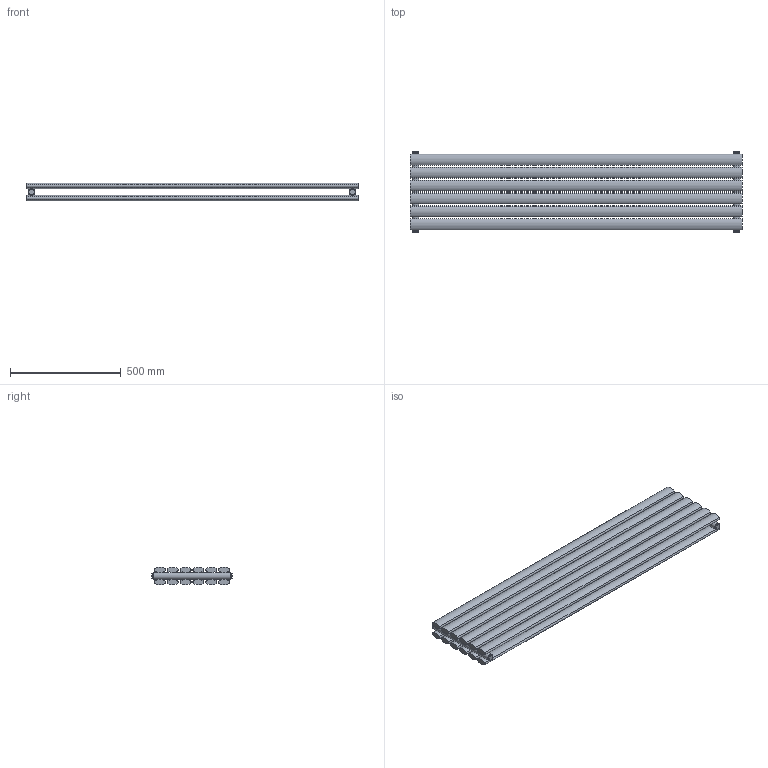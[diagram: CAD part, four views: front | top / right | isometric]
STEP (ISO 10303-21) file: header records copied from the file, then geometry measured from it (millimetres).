
FILE_DESCRIPTION(/* description */ (''),/* implementation_level */ '2;1');
FILE_NAME(/* name */ 'C:\Grzejniki\13DLUXRAD\pokojowe\FORTUNA\FORTUNA PODWÓJNA 1500x352.iam.stp',/* time_stamp */ '2016-06-28T17:31:42+02:00',/* author */ ('m.szydziak'),/* organization */ (''),/* preprocessor_version */ 'ST-DEVELOPER v16.5',/* originating_system */ 'Autodesk Inventor 2017',/* authorisation */ '');
FILE_SCHEMA (('AUTOMOTIVE_DESIGN { 1 0 10303 214 3 1 1 }'));
Length unit declared in the file: millimetre
Products named in the file (5): FORTUNA PODWÓJNA 1500x352; %%c30x1,5x352; 50x25x1,2x1500; zaślepka fi30 G0,5inch; korek
Assembly tree (22 placements, depth 2):
  FORTUNA PODWÓJNA 1500x352
    %%c30x1,5x352  x2
    50x25x1,2x1500  x12
    zaślepka fi30 G0,5inch  x4
    korek  x4
Bounding box: 1500 x 364 x 79.72 mm (x, y, z)
Volume: 17380090.1 mm3; surface area: 2326942 mm2
Topology: 22 solids, 22 shells, 168 faces, 400 edges, 276 vertices
Faces by surface type: plane 92, cylinder 76
Full cylindrical faces by diameter (mm): 5 x12, 18.631 x4, 24 x4, 27 x6, 30 x2
Entity records: 1679 total; most frequent: CARTESIAN_POINT 604, DIRECTION 210, ORIENTED_EDGE 150, AXIS2_PLACEMENT_3D 91, EDGE_CURVE 75, EDGE_LOOP 62, VERTEX_POINT 59, FACE_OUTER_BOUND 35
